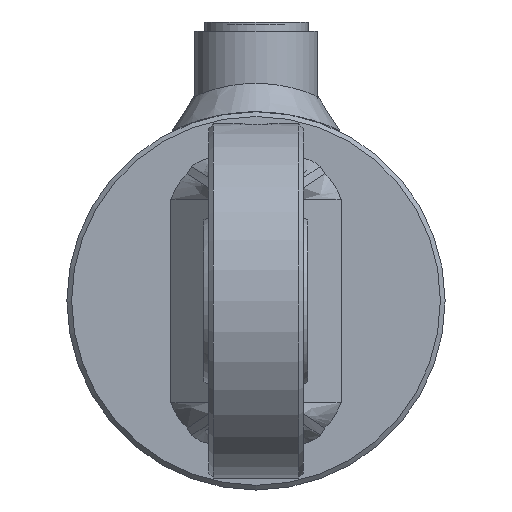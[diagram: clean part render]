
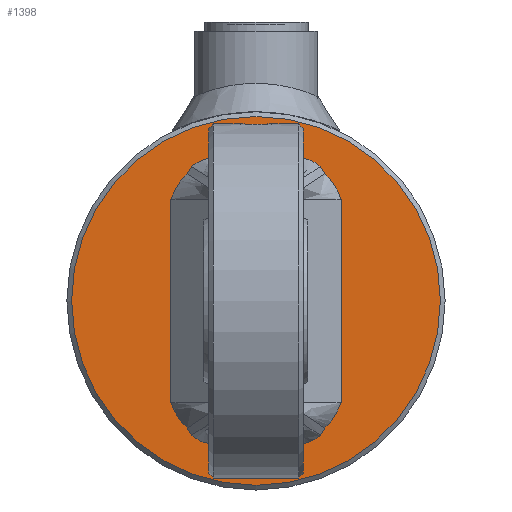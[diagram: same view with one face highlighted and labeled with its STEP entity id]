
A CAD part, left-side view. The second image highlights one B-rep face of the part: STEP entity #1398.
In plain terms, the highlighted planar face has unit normal (-1, 0, 0).
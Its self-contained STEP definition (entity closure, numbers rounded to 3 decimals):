
#1398 = ADVANCED_FACE( '', ( #2676 ), #2677, .T. );
#2676 = FACE_OUTER_BOUND( '', #8002, .T. );
#2677 = PLANE( '', #8003 );
#8002 = EDGE_LOOP( '', ( #10809 ) );
#8003 = AXIS2_PLACEMENT_3D( '', #10810, #10811, #10812 );
#10809 = ORIENTED_EDGE( '', *, *, #11907, .T. );
#10810 = CARTESIAN_POINT( '', ( -12., 0., 0. ) );
#10811 = DIRECTION( '', ( -1., 0., 0. ) );
#10812 = DIRECTION( '', ( 0., -1., 0. ) );
#11907 = EDGE_CURVE( '', #13271, #13271, #13272, .T. );
#13271 = VERTEX_POINT( '', #16599 );
#13272 = CIRCLE( '', #16600, 39. );
#16599 = CARTESIAN_POINT( '', ( -12., -39., 0. ) );
#16600 = AXIS2_PLACEMENT_3D( '', #17655, #17656, #17657 );
#17655 = CARTESIAN_POINT( '', ( -12., 0., 0. ) );
#17656 = DIRECTION( '', ( -1., 0., 0. ) );
#17657 = DIRECTION( '', ( 0., -1., 0. ) );
